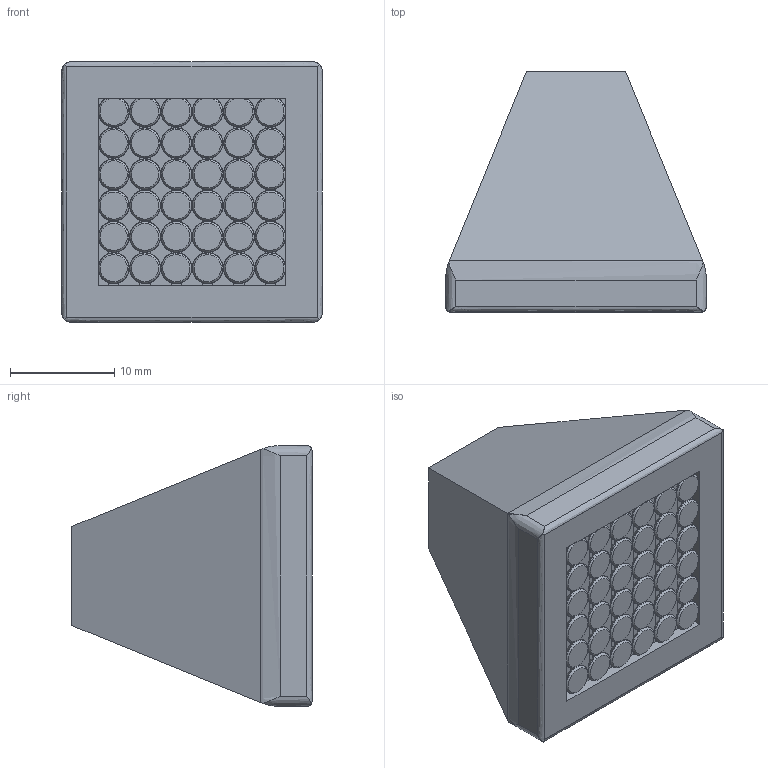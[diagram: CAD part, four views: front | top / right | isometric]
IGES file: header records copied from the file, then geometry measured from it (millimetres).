
Start section: Data from Parasolid IGES Translator 15.0.47, Copyright(c) 2006 Siemens P LM Software. All Rights Reserved.
Global section: file name: 9113698.igs; native system:  By UGS Corp.; preprocessor: XPlus GENERIC/IGES 3.0; author: Noname; organization: Noname; date: 20140207.113214; units: millimetre
Bounding box: 25 x 23.01 x 25 mm (x, y, z)
Surface area: 3407 mm2 (no closed solid volume)
Topology: 0 solids, 0 shells, 233 faces, 1510 edges, 1384 vertices
Faces by surface type: revolution 157, extrusion 76
